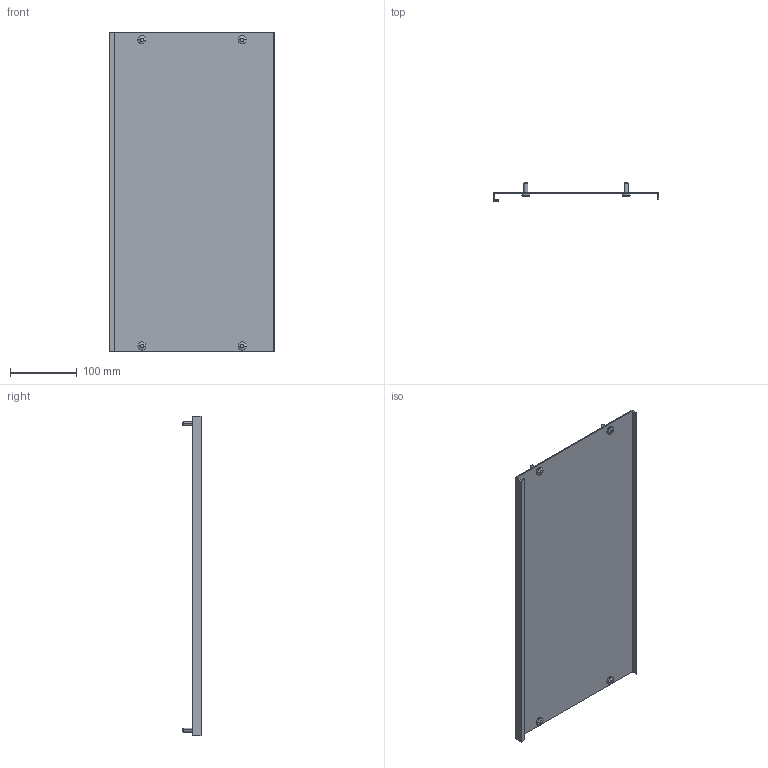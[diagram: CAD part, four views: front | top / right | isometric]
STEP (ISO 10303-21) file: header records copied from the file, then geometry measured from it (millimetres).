
FILE_DESCRIPTION (( 'STEP AP214' ), '1' );
FILE_NAME ('FO-00-PVS-025-060 Ïëàñòðîí ãëóõîé âíóòðåííèé 250õ600.STEP', '2025-09-29T19:00:24', ( '' ), ( '' ), 'SwSTEP 2.0', 'SolidWorks 2023', '' );
FILE_SCHEMA (( 'AUTOMOTIVE_DESIGN' ));
Length unit declared in the file: millimetre
Products named in the file (3): FO-00-PVS-025-060 Пластрон глухой внутренний 250х600; Винт M6x16 25-60 IEK
Assembly tree (3 placements, depth 2):
  FO-00-PVS-025-060 Пластрон глухой внутренний 250х600
    FO-00-PVS-025-060 Пластрон глухой внутренний 250х600
    Винт M6x16 25-60 IEK  x2
Bounding box: 248 x 27 x 479 mm (x, y, z)
Volume: 199713.5 mm3; surface area: 267133.5 mm2
Topology: 5 solids, 5 shells, 150 faces, 392 edges, 256 vertices
Faces by surface type: cylinder 88, plane 42, cone 12, bspline 8
Entity records: 3233 total; most frequent: CARTESIAN_POINT 724, ORIENTED_EDGE 512, DIRECTION 500, EDGE_CURVE 256, AXIS2_PLACEMENT_3D 180, VERTEX_POINT 168, VECTOR 140, LINE 140
